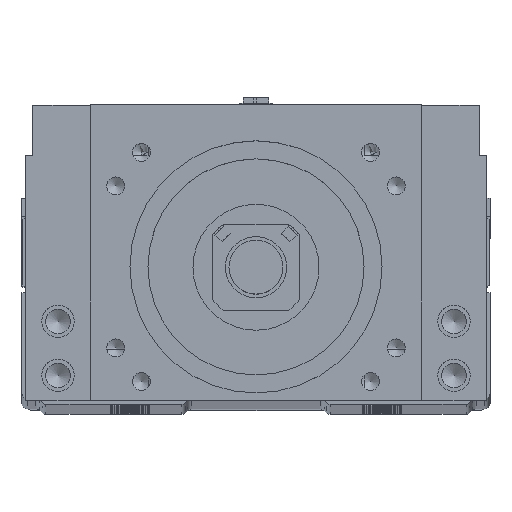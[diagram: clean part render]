
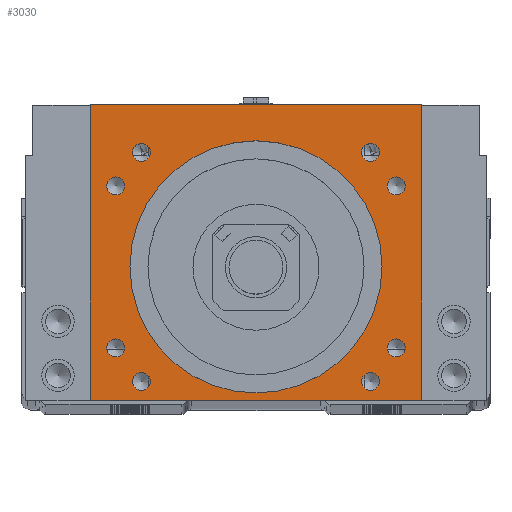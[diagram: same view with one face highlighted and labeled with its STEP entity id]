
A CAD part, top view. The second image highlights one B-rep face of the part: STEP entity #3030.
In plain terms, the highlighted planar face has unit normal (0, 0, 1).
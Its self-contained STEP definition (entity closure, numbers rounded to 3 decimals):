
#2044=FACE_BOUND('',#5319,.T.);
#2045=FACE_BOUND('',#5320,.T.);
#2046=FACE_BOUND('',#5321,.T.);
#2047=FACE_BOUND('',#5322,.T.);
#2048=FACE_BOUND('',#5323,.T.);
#2049=FACE_BOUND('',#5324,.T.);
#2050=FACE_BOUND('',#5325,.T.);
#2051=FACE_BOUND('',#5326,.T.);
#2052=FACE_BOUND('',#5327,.T.);
#2053=FACE_BOUND('',#5328,.T.);
#3030=ADVANCED_FACE('',(#2044,#2045,#2046,#2047,#2048,#2049,#2050,#2051,
#2052,#2053),#3778,.T.);
#3778=PLANE('',#17855);
#5319=EDGE_LOOP('',(#8838,#8839,#8840,#8841));
#5320=EDGE_LOOP('',(#8842));
#5321=EDGE_LOOP('',(#8843));
#5322=EDGE_LOOP('',(#8844));
#5323=EDGE_LOOP('',(#8845));
#5324=EDGE_LOOP('',(#8846));
#5325=EDGE_LOOP('',(#8847));
#5326=EDGE_LOOP('',(#8848));
#5327=EDGE_LOOP('',(#8849));
#5328=EDGE_LOOP('',(#8850));
#6319=CIRCLE('',#17802,2.5);
#6322=CIRCLE('',#17807,2.5);
#6324=CIRCLE('',#17811,2.5);
#6325=CIRCLE('',#17813,2.5);
#6336=CIRCLE('',#17840,2.5);
#6338=CIRCLE('',#17844,2.5);
#6340=CIRCLE('',#17848,2.5);
#6342=CIRCLE('',#17852,2.5);
#6343=CIRCLE('',#17854,35.015);
#8838=ORIENTED_EDGE('',*,*,#13580,.T.);
#8839=ORIENTED_EDGE('',*,*,#13581,.T.);
#8840=ORIENTED_EDGE('',*,*,#13582,.T.);
#8841=ORIENTED_EDGE('',*,*,#13583,.T.);
#8842=ORIENTED_EDGE('',*,*,#13577,.F.);
#8843=ORIENTED_EDGE('',*,*,#13575,.T.);
#8844=ORIENTED_EDGE('',*,*,#13573,.T.);
#8845=ORIENTED_EDGE('',*,*,#13579,.F.);
#8846=ORIENTED_EDGE('',*,*,#13584,.F.);
#8847=ORIENTED_EDGE('',*,*,#13528,.T.);
#8848=ORIENTED_EDGE('',*,*,#13527,.T.);
#8849=ORIENTED_EDGE('',*,*,#13525,.T.);
#8850=ORIENTED_EDGE('',*,*,#13522,.T.);
#11657=VERTEX_POINT('',#27034);
#11661=VERTEX_POINT('',#27043);
#11664=VERTEX_POINT('',#27050);
#11665=VERTEX_POINT('',#27053);
#11703=VERTEX_POINT('',#27152);
#11706=VERTEX_POINT('',#27159);
#11709=VERTEX_POINT('',#27166);
#11712=VERTEX_POINT('',#27173);
#11713=VERTEX_POINT('',#27176);
#11714=VERTEX_POINT('',#27177);
#11715=VERTEX_POINT('',#27179);
#11716=VERTEX_POINT('',#27181);
#11717=VERTEX_POINT('',#27184);
#13522=EDGE_CURVE('',#11657,#11657,#6319,.T.);
#13525=EDGE_CURVE('',#11661,#11661,#6322,.T.);
#13527=EDGE_CURVE('',#11664,#11664,#6324,.T.);
#13528=EDGE_CURVE('',#11665,#11665,#6325,.T.);
#13573=EDGE_CURVE('',#11703,#11703,#6336,.T.);
#13575=EDGE_CURVE('',#11706,#11706,#6338,.T.);
#13577=EDGE_CURVE('',#11709,#11709,#6340,.T.);
#13579=EDGE_CURVE('',#11712,#11712,#6342,.T.);
#13580=EDGE_CURVE('',#11713,#11714,#15181,.T.);
#13581=EDGE_CURVE('',#11714,#11715,#15182,.T.);
#13582=EDGE_CURVE('',#11715,#11716,#15183,.T.);
#13583=EDGE_CURVE('',#11716,#11713,#15184,.T.);
#13584=EDGE_CURVE('',#11717,#11717,#6343,.T.);
#15181=LINE('',#27175,#16479);
#15182=LINE('',#27178,#16480);
#15183=LINE('',#27180,#16481);
#15184=LINE('',#27182,#16482);
#16479=VECTOR('',#20841,1.);
#16480=VECTOR('',#20842,1.);
#16481=VECTOR('',#20843,1.);
#16482=VECTOR('',#20844,1.);
#17802=AXIS2_PLACEMENT_3D('',#27033,#20703,#20704);
#17807=AXIS2_PLACEMENT_3D('',#27042,#20713,#20714);
#17811=AXIS2_PLACEMENT_3D('',#27049,#20721,#20722);
#17813=AXIS2_PLACEMENT_3D('',#27052,#20725,#20726);
#17840=AXIS2_PLACEMENT_3D('',#27151,#20813,#20814);
#17844=AXIS2_PLACEMENT_3D('',#27158,#20821,#20822);
#17848=AXIS2_PLACEMENT_3D('',#27165,#20829,#20830);
#17852=AXIS2_PLACEMENT_3D('',#27172,#20837,#20838);
#17854=AXIS2_PLACEMENT_3D('',#27183,#20845,#20846);
#17855=AXIS2_PLACEMENT_3D('',#27185,#20847,#20848);
#20703=DIRECTION('',(0.,0.,-1.));
#20704=DIRECTION('',(1.,0.,0.));
#20713=DIRECTION('',(0.,0.,-1.));
#20714=DIRECTION('',(1.,0.,0.));
#20721=DIRECTION('',(0.,0.,-1.));
#20722=DIRECTION('',(1.,0.,0.));
#20725=DIRECTION('',(0.,0.,-1.));
#20726=DIRECTION('',(1.,0.,0.));
#20813=DIRECTION('',(0.,0.,-1.));
#20814=DIRECTION('',(1.,0.,0.));
#20821=DIRECTION('',(0.,0.,-1.));
#20822=DIRECTION('',(1.,0.,0.));
#20829=DIRECTION('',(0.,0.,1.));
#20830=DIRECTION('',(-1.,0.,0.));
#20837=DIRECTION('',(0.,0.,1.));
#20838=DIRECTION('',(-1.,0.,0.));
#20841=DIRECTION('',(0.,1.,0.));
#20842=DIRECTION('',(-1.,0.,0.));
#20843=DIRECTION('',(0.,-1.,0.));
#20844=DIRECTION('',(1.,0.,0.));
#20845=DIRECTION('',(0.,0.,1.));
#20846=DIRECTION('',(1.,0.,0.));
#20847=DIRECTION('',(0.,0.,1.));
#20848=DIRECTION('',(-1.,0.,0.));
#27033=CARTESIAN_POINT('',(31.82,69.82,100.));
#27034=CARTESIAN_POINT('',(34.32,69.82,100.));
#27042=CARTESIAN_POINT('',(31.82,6.18,100.));
#27043=CARTESIAN_POINT('',(34.32,6.18,100.));
#27049=CARTESIAN_POINT('',(-31.82,6.18,100.));
#27050=CARTESIAN_POINT('',(-29.32,6.18,100.));
#27052=CARTESIAN_POINT('',(-31.82,69.82,100.));
#27053=CARTESIAN_POINT('',(-29.32,69.82,100.));
#27151=CARTESIAN_POINT('',(38.971,15.5,100.));
#27152=CARTESIAN_POINT('',(41.471,15.5,100.));
#27158=CARTESIAN_POINT('',(38.971,60.5,100.));
#27159=CARTESIAN_POINT('',(41.471,60.5,100.));
#27165=CARTESIAN_POINT('',(-38.971,15.5,100.));
#27166=CARTESIAN_POINT('',(-41.471,15.5,100.));
#27172=CARTESIAN_POINT('',(-38.971,60.5,100.));
#27173=CARTESIAN_POINT('',(-41.471,60.5,100.));
#27175=CARTESIAN_POINT('',(46.,38.,100.));
#27176=CARTESIAN_POINT('',(46.,1.,100.));
#27177=CARTESIAN_POINT('',(46.,83.,100.));
#27178=CARTESIAN_POINT('',(0.,83.,100.));
#27179=CARTESIAN_POINT('',(-46.,83.,100.));
#27180=CARTESIAN_POINT('',(-46.,38.,100.));
#27181=CARTESIAN_POINT('',(-46.,1.,100.));
#27182=CARTESIAN_POINT('',(0.,1.,100.));
#27183=CARTESIAN_POINT('',(0.,38.,100.));
#27184=CARTESIAN_POINT('',(35.015,38.,100.));
#27185=CARTESIAN_POINT('',(0.,38.,100.));
